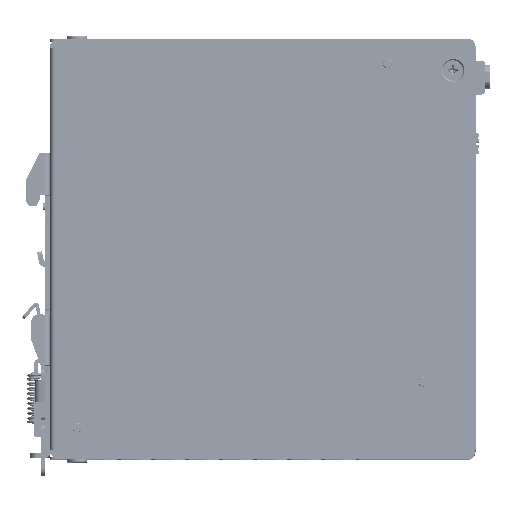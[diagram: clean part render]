
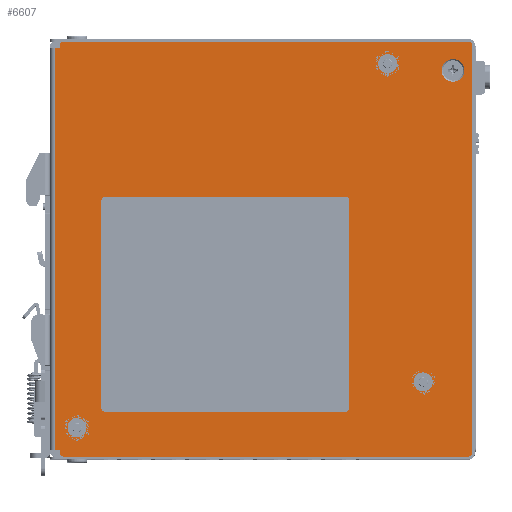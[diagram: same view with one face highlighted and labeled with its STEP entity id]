
A CAD part, top view. The second image highlights one B-rep face of the part: STEP entity #6607.
In plain terms, the highlighted planar face has unit normal (0, 0, 1).
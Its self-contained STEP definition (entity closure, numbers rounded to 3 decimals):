
#1285=DIRECTION('',(0.,-1.,0.));
#1286=VECTOR('',#1285,118.4);
#1287=CARTESIAN_POINT('',(1.5,59.2,0.));
#1288=LINE('',#1287,#1286);
#1307=DIRECTION('',(-1.,0.,0.));
#1308=VECTOR('',#1307,1.5);
#1309=CARTESIAN_POINT('',(3.,59.2,0.));
#1310=LINE('',#1309,#1308);
#1321=CARTESIAN_POINT('',(123.5,-60.1,0.));
#1322=DIRECTION('',(0.,0.,-1.));
#1323=DIRECTION('',(1.,0.,0.));
#1324=AXIS2_PLACEMENT_3D('',#1321,#1322,#1323);
#1329=CARTESIAN_POINT('',(4.,-60.2,0.));
#1330=DIRECTION('',(0.,0.,-1.));
#1331=DIRECTION('',(0.,-1.,0.));
#1332=AXIS2_PLACEMENT_3D('',#1329,#1330,#1331);
#1337=CARTESIAN_POINT('',(2.7,-59.5,0.));
#1338=DIRECTION('',(0.,0.,1.));
#1339=DIRECTION('',(1.,0.,0.));
#1340=AXIS2_PLACEMENT_3D('',#1337,#1338,#1339);
#1345=DIRECTION('',(-1.,0.,0.));
#1346=VECTOR('',#1345,1.2);
#1347=CARTESIAN_POINT('',(2.7,-59.2,0.));
#1348=LINE('',#1347,#1346);
#1352=DIRECTION('',(0.,1.,0.));
#1353=VECTOR('',#1352,1.);
#1354=CARTESIAN_POINT('',(3.,59.2,0.));
#1355=LINE('',#1354,#1353);
#1359=CARTESIAN_POINT('',(4.,60.2,0.));
#1360=DIRECTION('',(0.,0.,-1.));
#1361=DIRECTION('',(-1.,0.,0.));
#1362=AXIS2_PLACEMENT_3D('',#1359,#1360,#1361);
#1367=CARTESIAN_POINT('',(123.5,60.1,0.));
#1368=DIRECTION('',(0.,0.,-1.));
#1369=DIRECTION('',(0.,1.,0.));
#1370=AXIS2_PLACEMENT_3D('',#1367,#1368,#1369);
#1375=CARTESIAN_POINT('',(118.9,52.7,0.));
#1376=DIRECTION('',(0.,0.,1.));
#1377=DIRECTION('',(-1.,0.,0.));
#1378=AXIS2_PLACEMENT_3D('',#1375,#1376,#1377);
#1383=CARTESIAN_POINT('',(118.9,52.7,0.));
#1384=DIRECTION('',(0.,0.,1.));
#1385=DIRECTION('',(1.,0.,0.));
#1386=AXIS2_PLACEMENT_3D('',#1383,#1384,#1385);
#1391=CARTESIAN_POINT('',(8.,-52.7,0.));
#1392=DIRECTION('',(0.,0.,1.));
#1393=DIRECTION('',(1.,0.,0.));
#1394=AXIS2_PLACEMENT_3D('',#1391,#1392,#1393);
#1399=CARTESIAN_POINT('',(8.,-52.7,0.));
#1400=DIRECTION('',(0.,0.,1.));
#1401=DIRECTION('',(-1.,0.,0.));
#1402=AXIS2_PLACEMENT_3D('',#1399,#1400,#1401);
#1407=CARTESIAN_POINT('',(99.6,54.7,0.));
#1408=DIRECTION('',(0.,0.,1.));
#1409=DIRECTION('',(1.,0.,0.));
#1410=AXIS2_PLACEMENT_3D('',#1407,#1408,#1409);
#1415=CARTESIAN_POINT('',(99.6,54.7,0.));
#1416=DIRECTION('',(0.,0.,1.));
#1417=DIRECTION('',(-1.,0.,0.));
#1418=AXIS2_PLACEMENT_3D('',#1415,#1416,#1417);
#1423=CARTESIAN_POINT('',(110.1,-39.2,0.));
#1424=DIRECTION('',(0.,0.,1.));
#1425=DIRECTION('',(1.,0.,0.));
#1426=AXIS2_PLACEMENT_3D('',#1423,#1424,#1425);
#1431=CARTESIAN_POINT('',(110.1,-39.2,0.));
#1432=DIRECTION('',(0.,0.,1.));
#1433=DIRECTION('',(-1.,0.,0.));
#1434=AXIS2_PLACEMENT_3D('',#1431,#1432,#1433);
#1606=DIRECTION('',(0.,1.,0.));
#1607=VECTOR('',#1606,21.7);
#1608=CARTESIAN_POINT('',(124.6,-60.1,0.));
#1609=LINE('',#1608,#1607);
#1620=DIRECTION('',(0.,1.,0.));
#1621=VECTOR('',#1620,98.5);
#1622=CARTESIAN_POINT('',(124.6,-38.4,0.));
#1623=LINE('',#1622,#1621);
#1641=DIRECTION('',(-1.,0.,0.));
#1642=VECTOR('',#1641,119.5);
#1643=CARTESIAN_POINT('',(123.5,61.2,0.));
#1644=LINE('',#1643,#1642);
#1697=DIRECTION('',(0.,-1.,0.));
#1698=VECTOR('',#1697,0.7);
#1699=CARTESIAN_POINT('',(3.,-59.5,0.));
#1700=LINE('',#1699,#1698);
#1718=DIRECTION('',(1.,0.,0.));
#1719=VECTOR('',#1718,119.5);
#1720=CARTESIAN_POINT('',(4.,-61.2,0.));
#1721=LINE('',#1720,#1719);
#1811=DIRECTION('',(0.,1.,0.));
#1812=VECTOR('',#1811,20.);
#1813=CARTESIAN_POINT('',(15.,-29.7,0.));
#1814=LINE('',#1813,#1812);
#1825=DIRECTION('',(1.,0.,0.));
#1826=VECTOR('',#1825,0.2);
#1827=CARTESIAN_POINT('',(15.,-9.7,0.));
#1828=LINE('',#1827,#1826);
#1839=DIRECTION('',(0.,-1.,0.));
#1840=VECTOR('',#1839,20.);
#1841=CARTESIAN_POINT('',(15.2,-9.7,0.));
#1842=LINE('',#1841,#1840);
#1853=DIRECTION('',(-1.,0.,0.));
#1854=VECTOR('',#1853,0.2);
#1855=CARTESIAN_POINT('',(15.2,-29.7,0.));
#1856=LINE('',#1855,#1854);
#1895=DIRECTION('',(0.,1.,0.));
#1896=VECTOR('',#1895,3.5);
#1897=CARTESIAN_POINT('',(15.,-48.2,0.));
#1898=LINE('',#1897,#1896);
#1909=DIRECTION('',(1.,0.,0.));
#1910=VECTOR('',#1909,0.2);
#1911=CARTESIAN_POINT('',(15.,-44.7,0.));
#1912=LINE('',#1911,#1910);
#1923=DIRECTION('',(0.,-1.,0.));
#1924=VECTOR('',#1923,3.3);
#1925=CARTESIAN_POINT('',(15.2,-44.7,0.));
#1926=LINE('',#1925,#1924);
#1937=DIRECTION('',(1.,0.,0.));
#1938=VECTOR('',#1937,3.3);
#1939=CARTESIAN_POINT('',(15.2,-48.,0.));
#1940=LINE('',#1939,#1938);
#1951=DIRECTION('',(0.,-1.,0.));
#1952=VECTOR('',#1951,0.2);
#1953=CARTESIAN_POINT('',(18.5,-48.,0.));
#1954=LINE('',#1953,#1952);
#1965=DIRECTION('',(-1.,0.,0.));
#1966=VECTOR('',#1965,3.5);
#1967=CARTESIAN_POINT('',(18.5,-48.2,0.));
#1968=LINE('',#1967,#1966);
#5216=CARTESIAN_POINT('',(1.5,-59.2,0.));
#5217=VERTEX_POINT('',#5216);
#5218=CARTESIAN_POINT('',(1.5,59.2,0.));
#5219=VERTEX_POINT('',#5218);
#5220=CARTESIAN_POINT('',(3.,59.2,0.));
#5221=VERTEX_POINT('',#5220);
#5224=CARTESIAN_POINT('',(124.6,-60.1,0.));
#5225=CARTESIAN_POINT('',(123.5,-61.2,0.));
#5226=VERTEX_POINT('',#5224);
#5227=VERTEX_POINT('',#5225);
#5228=CARTESIAN_POINT('',(4.,-61.2,0.));
#5229=VERTEX_POINT('',#5228);
#5230=CARTESIAN_POINT('',(3.,-60.2,0.));
#5231=VERTEX_POINT('',#5230);
#5232=CARTESIAN_POINT('',(3.,-59.5,0.));
#5233=VERTEX_POINT('',#5232);
#5234=CARTESIAN_POINT('',(2.7,-59.2,0.));
#5235=VERTEX_POINT('',#5234);
#5236=CARTESIAN_POINT('',(3.,60.2,0.));
#5237=VERTEX_POINT('',#5236);
#5238=CARTESIAN_POINT('',(4.,61.2,0.));
#5239=VERTEX_POINT('',#5238);
#5240=CARTESIAN_POINT('',(123.5,61.2,0.));
#5241=VERTEX_POINT('',#5240);
#5242=CARTESIAN_POINT('',(124.6,60.1,0.));
#5243=VERTEX_POINT('',#5242);
#5244=CARTESIAN_POINT('',(124.6,-38.4,0.));
#5245=VERTEX_POINT('',#5244);
#5246=CARTESIAN_POINT('',(115.55,52.7,0.));
#5247=CARTESIAN_POINT('',(122.25,52.7,0.));
#5248=VERTEX_POINT('',#5246);
#5249=VERTEX_POINT('',#5247);
#5250=CARTESIAN_POINT('',(10.8,-52.7,0.));
#5251=CARTESIAN_POINT('',(5.2,-52.7,0.));
#5252=VERTEX_POINT('',#5250);
#5253=VERTEX_POINT('',#5251);
#5254=CARTESIAN_POINT('',(102.4,54.7,0.));
#5255=CARTESIAN_POINT('',(96.8,54.7,0.));
#5256=VERTEX_POINT('',#5254);
#5257=VERTEX_POINT('',#5255);
#5258=CARTESIAN_POINT('',(15.,-29.7,0.));
#5259=CARTESIAN_POINT('',(15.,-9.7,0.));
#5260=VERTEX_POINT('',#5258);
#5261=VERTEX_POINT('',#5259);
#5262=CARTESIAN_POINT('',(15.2,-29.7,0.));
#5263=VERTEX_POINT('',#5262);
#5264=CARTESIAN_POINT('',(15.2,-9.7,0.));
#5265=VERTEX_POINT('',#5264);
#5266=CARTESIAN_POINT('',(15.,-48.2,0.));
#5267=CARTESIAN_POINT('',(15.,-44.7,0.));
#5268=VERTEX_POINT('',#5266);
#5269=VERTEX_POINT('',#5267);
#5270=CARTESIAN_POINT('',(18.5,-48.2,0.));
#5271=VERTEX_POINT('',#5270);
#5272=CARTESIAN_POINT('',(18.5,-48.,0.));
#5273=VERTEX_POINT('',#5272);
#5274=CARTESIAN_POINT('',(15.2,-48.,0.));
#5275=VERTEX_POINT('',#5274);
#5276=CARTESIAN_POINT('',(15.2,-44.7,0.));
#5277=VERTEX_POINT('',#5276);
#5278=CARTESIAN_POINT('',(112.9,-39.2,0.));
#5279=CARTESIAN_POINT('',(107.3,-39.2,0.));
#5280=VERTEX_POINT('',#5278);
#5281=VERTEX_POINT('',#5279);
#6526=CARTESIAN_POINT('',(0.,0.,0.));
#6527=DIRECTION('',(0.,0.,1.));
#6528=DIRECTION('',(1.,0.,0.));
#6529=AXIS2_PLACEMENT_3D('',#6526,#6527,#6528);
#6530=PLANE('',#6529);
#6532=ORIENTED_EDGE('',*,*,#6531,.T.);
#6534=ORIENTED_EDGE('',*,*,#6533,.F.);
#6536=ORIENTED_EDGE('',*,*,#6535,.T.);
#6538=ORIENTED_EDGE('',*,*,#6537,.F.);
#6540=ORIENTED_EDGE('',*,*,#6539,.T.);
#6542=ORIENTED_EDGE('',*,*,#6541,.T.);
#6543=ORIENTED_EDGE('',*,*,#6493,.F.);
#6544=ORIENTED_EDGE('',*,*,#6516,.F.);
#6546=ORIENTED_EDGE('',*,*,#6545,.T.);
#6548=ORIENTED_EDGE('',*,*,#6547,.T.);
#6550=ORIENTED_EDGE('',*,*,#6549,.F.);
#6552=ORIENTED_EDGE('',*,*,#6551,.T.);
#6554=ORIENTED_EDGE('',*,*,#6553,.F.);
#6556=ORIENTED_EDGE('',*,*,#6555,.F.);
#6557=EDGE_LOOP('',(#6532,#6534,#6536,#6538,#6540,#6542,#6543,#6544,#6546,#6548,
#6550,#6552,#6554,#6556));
#6558=FACE_OUTER_BOUND('',#6557,.F.);
#6560=ORIENTED_EDGE('',*,*,#6559,.T.);
#6562=ORIENTED_EDGE('',*,*,#6561,.T.);
#6563=EDGE_LOOP('',(#6560,#6562));
#6564=FACE_BOUND('',#6563,.F.);
#6566=ORIENTED_EDGE('',*,*,#6565,.T.);
#6568=ORIENTED_EDGE('',*,*,#6567,.T.);
#6569=EDGE_LOOP('',(#6566,#6568));
#6570=FACE_BOUND('',#6569,.F.);
#6572=ORIENTED_EDGE('',*,*,#6571,.T.);
#6574=ORIENTED_EDGE('',*,*,#6573,.T.);
#6575=EDGE_LOOP('',(#6572,#6574));
#6576=FACE_BOUND('',#6575,.F.);
#6578=ORIENTED_EDGE('',*,*,#6577,.F.);
#6580=ORIENTED_EDGE('',*,*,#6579,.F.);
#6582=ORIENTED_EDGE('',*,*,#6581,.F.);
#6584=ORIENTED_EDGE('',*,*,#6583,.F.);
#6585=EDGE_LOOP('',(#6578,#6580,#6582,#6584));
#6586=FACE_BOUND('',#6585,.F.);
#6588=ORIENTED_EDGE('',*,*,#6587,.F.);
#6590=ORIENTED_EDGE('',*,*,#6589,.F.);
#6592=ORIENTED_EDGE('',*,*,#6591,.F.);
#6594=ORIENTED_EDGE('',*,*,#6593,.F.);
#6596=ORIENTED_EDGE('',*,*,#6595,.F.);
#6598=ORIENTED_EDGE('',*,*,#6597,.F.);
#6599=EDGE_LOOP('',(#6588,#6590,#6592,#6594,#6596,#6598));
#6600=FACE_BOUND('',#6599,.F.);
#6602=ORIENTED_EDGE('',*,*,#6601,.T.);
#6604=ORIENTED_EDGE('',*,*,#6603,.T.);
#6605=EDGE_LOOP('',(#6602,#6604));
#6606=FACE_BOUND('',#6605,.F.);
#6607=ADVANCED_FACE('',(#6558,#6564,#6570,#6576,#6586,#6600,#6606),#6530,.T.);
#1325=CIRCLE('',#1324,1.1);
#1333=CIRCLE('',#1332,1.);
#1341=CIRCLE('',#1340,0.3);
#1363=CIRCLE('',#1362,1.);
#1371=CIRCLE('',#1370,1.1);
#1379=CIRCLE('',#1378,3.35);
#1387=CIRCLE('',#1386,3.35);
#1395=CIRCLE('',#1394,2.8);
#1403=CIRCLE('',#1402,2.8);
#1411=CIRCLE('',#1410,2.8);
#1419=CIRCLE('',#1418,2.8);
#1427=CIRCLE('',#1426,2.8);
#1435=CIRCLE('',#1434,2.8);
#6493=EDGE_CURVE('',#5219,#5217,#1288,.T.);
#6516=EDGE_CURVE('',#5221,#5219,#1310,.T.);
#6531=EDGE_CURVE('',#5226,#5227,#1325,.T.);
#6533=EDGE_CURVE('',#5229,#5227,#1721,.T.);
#6535=EDGE_CURVE('',#5229,#5231,#1333,.T.);
#6537=EDGE_CURVE('',#5233,#5231,#1700,.T.);
#6539=EDGE_CURVE('',#5233,#5235,#1341,.T.);
#6541=EDGE_CURVE('',#5235,#5217,#1348,.T.);
#6545=EDGE_CURVE('',#5221,#5237,#1355,.T.);
#6547=EDGE_CURVE('',#5237,#5239,#1363,.T.);
#6549=EDGE_CURVE('',#5241,#5239,#1644,.T.);
#6551=EDGE_CURVE('',#5241,#5243,#1371,.T.);
#6553=EDGE_CURVE('',#5245,#5243,#1623,.T.);
#6555=EDGE_CURVE('',#5226,#5245,#1609,.T.);
#6559=EDGE_CURVE('',#5248,#5249,#1379,.T.);
#6561=EDGE_CURVE('',#5249,#5248,#1387,.T.);
#6565=EDGE_CURVE('',#5252,#5253,#1395,.T.);
#6567=EDGE_CURVE('',#5253,#5252,#1403,.T.);
#6571=EDGE_CURVE('',#5256,#5257,#1411,.T.);
#6573=EDGE_CURVE('',#5257,#5256,#1419,.T.);
#6577=EDGE_CURVE('',#5260,#5261,#1814,.T.);
#6579=EDGE_CURVE('',#5263,#5260,#1856,.T.);
#6581=EDGE_CURVE('',#5265,#5263,#1842,.T.);
#6583=EDGE_CURVE('',#5261,#5265,#1828,.T.);
#6587=EDGE_CURVE('',#5268,#5269,#1898,.T.);
#6589=EDGE_CURVE('',#5271,#5268,#1968,.T.);
#6591=EDGE_CURVE('',#5273,#5271,#1954,.T.);
#6593=EDGE_CURVE('',#5275,#5273,#1940,.T.);
#6595=EDGE_CURVE('',#5277,#5275,#1926,.T.);
#6597=EDGE_CURVE('',#5269,#5277,#1912,.T.);
#6601=EDGE_CURVE('',#5280,#5281,#1427,.T.);
#6603=EDGE_CURVE('',#5281,#5280,#1435,.T.);
